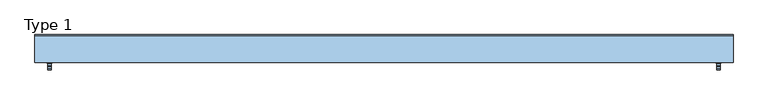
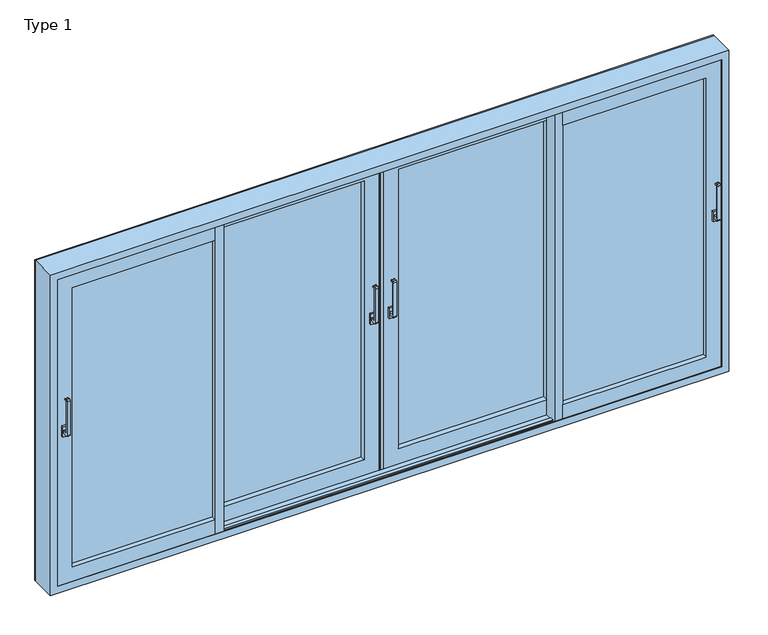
"""IFC4 building model written with IfcOpenShell, lengths in millimetres: window geometry, ETEM_ES70_Quadruple_Lift_Sliding_NI : Type 1."""

from ifc_helpers import new_model, si_unit, point, frame, frame_2d, origin, place, context, project, spatial, polyline, circle_curve, trimmed, segment, composite_curve, outline, extrude, faceted_brep, source, transform, mapped, element, save


def type_1_cbf24e59(model_context):
    return source(origin(), model_context, "Body", "SolidModel", [
        extrude(outline(composite_curve([segment(polyline([(-76.4992454, 1090.0), (-108.0729301, 1090.0)]), True, "CONTINUOUS"), segment(trimmed(circle_curve(frame_2d((-108.0729301, 1098.4263152)), 8.4263152), [point((-108.0729301, 1090.0))], [point((-116.4992454, 1098.4263152))], False, "CARTESIAN"), True, "CONTINUOUS"), segment(polyline([(-116.4992454, 1098.4263152), (-116.4992454, 1331.5736848)]), True, "CONTINUOUS"), segment(trimmed(circle_curve(frame_2d((-108.0729301, 1331.5736848)), 8.4263152), [point((-116.4992454, 1331.5736848))], [point((-108.0729301, 1340.0))], False, "CARTESIAN"), True, "CONTINUOUS"), segment(polyline([(-108.0729301, 1340.0), (-96.4992454, 1340.0)]), True, "CONTINUOUS"), segment(trimmed(circle_curve(frame_2d((-96.4992454, 1335.0)), 5.0), [point((-96.4992454, 1340.0))], [point((-96.4992454, 1330.0))], False, "CARTESIAN"), True, "CONTINUOUS"), segment(polyline([(-96.4992454, 1330.0), (-102.9637115, 1330.0)]), True, "CONTINUOUS"), segment(trimmed(circle_curve(frame_2d((-102.9637115, 1326.4644661)), 3.5355339), [point((-102.9637115, 1330.0))], [point((-106.4992454, 1326.4644661))], True, "CARTESIAN"), True, "CONTINUOUS"), segment(polyline([(-106.4992454, 1326.4644661), (-106.4992454, 1113.5355339)]), True, "CONTINUOUS"), segment(trimmed(circle_curve(frame_2d((-102.9637115, 1113.5355339)), 3.5355339), [point((-106.4992454, 1113.5355339))], [point((-102.9637115, 1110.0))], True, "CARTESIAN"), True, "CONTINUOUS"), segment(polyline([(-102.9637115, 1110.0), (-76.4992454, 1110.0), (-76.4992454, 1090.0)]), True, "CONTINUOUS")], self_intersect=False)), frame((2098.5, 0.0, 0.0), z_axis=(1.0, 0.0, 0.0), x_axis=(0.0, 1.0, 0.0)), (0.0, 0.0, 1.0), 20.0),
        extrude(outline(polyline([(2093.5, -76.4992454), (2093.5, -63.4992454), (2123.5, -63.4992454), (2123.5, -76.4992454), (2093.5, -76.4992454)])), frame((0.0, 0.0, 1065.0), z_axis=(0.0, 0.0, 1.0), x_axis=(1.0, 0.0, 0.0)), (0.0, 0.0, 1.0), 70.0),
        extrude(outline(composite_curve([segment(polyline([(-76.4992454, 1090.0), (-108.0729301, 1090.0)]), True, "CONTINUOUS"), segment(trimmed(circle_curve(frame_2d((-108.0729301, 1098.4263152)), 8.4263152), [point((-108.0729301, 1090.0))], [point((-116.4992454, 1098.4263152))], False, "CARTESIAN"), True, "CONTINUOUS"), segment(polyline([(-116.4992454, 1098.4263152), (-116.4992454, 1331.5736848)]), True, "CONTINUOUS"), segment(trimmed(circle_curve(frame_2d((-108.0729301, 1331.5736848)), 8.4263152), [point((-116.4992454, 1331.5736848))], [point((-108.0729301, 1340.0))], False, "CARTESIAN"), True, "CONTINUOUS"), segment(polyline([(-108.0729301, 1340.0), (-96.4992454, 1340.0)]), True, "CONTINUOUS"), segment(trimmed(circle_curve(frame_2d((-96.4992454, 1335.0)), 5.0), [point((-96.4992454, 1340.0))], [point((-96.4992454, 1330.0))], False, "CARTESIAN"), True, "CONTINUOUS"), segment(polyline([(-96.4992454, 1330.0), (-102.9637115, 1330.0)]), True, "CONTINUOUS"), segment(trimmed(circle_curve(frame_2d((-102.9637115, 1326.4644661)), 3.5355339), [point((-102.9637115, 1330.0))], [point((-106.4992454, 1326.4644661))], True, "CARTESIAN"), True, "CONTINUOUS"), segment(polyline([(-106.4992454, 1326.4644661), (-106.4992454, 1113.5355339)]), True, "CONTINUOUS"), segment(trimmed(circle_curve(frame_2d((-102.9637115, 1113.5355339)), 3.5355339), [point((-106.4992454, 1113.5355339))], [point((-102.9637115, 1110.0))], True, "CARTESIAN"), True, "CONTINUOUS"), segment(polyline([(-102.9637115, 1110.0), (-76.4992454, 1110.0), (-76.4992454, 1090.0)]), True, "CONTINUOUS")], self_intersect=False)), frame((-2118.5, 0.0, 0.0), z_axis=(1.0, 0.0, 0.0), x_axis=(0.0, 1.0, 0.0)), (0.0, 0.0, 1.0), 20.0),
        extrude(outline(polyline([(-2123.5, -76.4992454), (-2123.5, -63.4992454), (-2093.5, -63.4992454), (-2093.5, -76.4992454), (-2123.5, -76.4992454)])), frame((0.0, 0.0, 1065.0), z_axis=(0.0, 0.0, 1.0), x_axis=(1.0, 0.0, 0.0)), (0.0, 0.0, 1.0), 70.0),
        extrude(outline(composite_curve([segment(polyline([(13.5, 1090.0), (-18.0736848, 1090.0)]), True, "CONTINUOUS"), segment(trimmed(circle_curve(frame_2d((-18.0736848, 1098.4263152)), 8.4263152), [point((-18.0736848, 1090.0))], [point((-26.5, 1098.4263152))], False, "CARTESIAN"), True, "CONTINUOUS"), segment(polyline([(-26.5, 1098.4263152), (-26.5, 1331.5736848)]), True, "CONTINUOUS"), segment(trimmed(circle_curve(frame_2d((-18.0736848, 1331.5736848)), 8.4263152), [point((-26.5, 1331.5736848))], [point((-18.0736848, 1340.0))], False, "CARTESIAN"), True, "CONTINUOUS"), segment(polyline([(-18.0736848, 1340.0), (-6.5, 1340.0)]), True, "CONTINUOUS"), segment(trimmed(circle_curve(frame_2d((-6.5, 1335.0)), 5.0), [point((-6.5, 1340.0))], [point((-6.5, 1330.0))], False, "CARTESIAN"), True, "CONTINUOUS"), segment(polyline([(-6.5, 1330.0), (-12.9644661, 1330.0)]), True, "CONTINUOUS"), segment(trimmed(circle_curve(frame_2d((-12.9644661, 1326.4644661)), 3.5355339), [point((-12.9644661, 1330.0))], [point((-16.5, 1326.4644661))], True, "CARTESIAN"), True, "CONTINUOUS"), segment(polyline([(-16.5, 1326.4644661), (-16.5, 1113.5355339)]), True, "CONTINUOUS"), segment(trimmed(circle_curve(frame_2d((-12.9644661, 1113.5355339)), 3.5355339), [point((-16.5, 1113.5355339))], [point((-12.9644661, 1110.0))], True, "CARTESIAN"), True, "CONTINUOUS"), segment(polyline([(-12.9644661, 1110.0), (13.5, 1110.0), (13.5, 1090.0)]), True, "CONTINUOUS")], self_intersect=False)), frame((-69.4936823, 0.0, 0.0), z_axis=(1.0, 0.0, 0.0), x_axis=(0.0, 1.0, 0.0)), (0.0, 0.0, 1.0), 20.0),
        extrude(outline(polyline([(-74.4936823, 13.5), (-74.4936823, 26.5), (-44.4936823, 26.5), (-44.4936823, 13.5), (-74.4936823, 13.5)])), frame((0.0, 0.0, 1065.0), z_axis=(0.0, 0.0, 1.0), x_axis=(1.0, 0.0, 0.0)), (0.0, 0.0, 1.0), 70.0),
        extrude(outline(composite_curve([segment(polyline([(13.5, 1090.0), (-18.0736848, 1090.0)]), True, "CONTINUOUS"), segment(trimmed(circle_curve(frame_2d((-18.0736848, 1098.4263152)), 8.4263152), [point((-18.0736848, 1090.0))], [point((-26.5, 1098.4263152))], False, "CARTESIAN"), True, "CONTINUOUS"), segment(polyline([(-26.5, 1098.4263152), (-26.5, 1331.5736848)]), True, "CONTINUOUS"), segment(trimmed(circle_curve(frame_2d((-18.0736848, 1331.5736848)), 8.4263152), [point((-26.5, 1331.5736848))], [point((-18.0736848, 1340.0))], False, "CARTESIAN"), True, "CONTINUOUS"), segment(polyline([(-18.0736848, 1340.0), (-6.5, 1340.0)]), True, "CONTINUOUS"), segment(trimmed(circle_curve(frame_2d((-6.5, 1335.0)), 5.0), [point((-6.5, 1340.0))], [point((-6.5, 1330.0))], False, "CARTESIAN"), True, "CONTINUOUS"), segment(polyline([(-6.5, 1330.0), (-12.9644661, 1330.0)]), True, "CONTINUOUS"), segment(trimmed(circle_curve(frame_2d((-12.9644661, 1326.4644661)), 3.5355339), [point((-12.9644661, 1330.0))], [point((-16.5, 1326.4644661))], True, "CARTESIAN"), True, "CONTINUOUS"), segment(polyline([(-16.5, 1326.4644661), (-16.5, 1113.5355339)]), True, "CONTINUOUS"), segment(trimmed(circle_curve(frame_2d((-12.9644661, 1113.5355339)), 3.5355339), [point((-16.5, 1113.5355339))], [point((-12.9644661, 1110.0))], True, "CARTESIAN"), True, "CONTINUOUS"), segment(polyline([(-12.9644661, 1110.0), (13.5, 1110.0), (13.5, 1090.0)]), True, "CONTINUOUS")], self_intersect=False)), frame((49.4931787, 0.0, 0.0), z_axis=(1.0, 0.0, 0.0), x_axis=(0.0, 1.0, 0.0)), (0.0, 0.0, 1.0), 20.0),
        extrude(outline(polyline([(74.4931787, 13.5), (44.4931787, 13.5), (44.4931787, 26.5), (74.4931787, 26.5), (74.4931787, 13.5)])), frame((0.0, 0.0, 1065.0), z_axis=(0.0, 0.0, 1.0), x_axis=(1.0, 0.0, 0.0)), (0.0, 0.0, 1.0), 70.0),
        faceted_brep([(2200.0, -70.1, 2200.0), (2200.0, -70.1, 0.0), (2200.0, 97.9, 0.0), (2200.0, 97.9, 2200.0), (-2200.0, -70.1, 2200.0), (-2200.0, -70.1, 0.0), (2152.0, -70.1, 48.0), (-2152.0, -70.1, 48.0), (-2152.0, -70.1, 2152.0), (2152.0, -70.1, 2152.0), (-2200.0, 97.9, 0.0), (-2200.0, 97.9, 2200.0), (2183.7, 97.9, 2183.7), (-2183.7, 97.9, 2183.7), (-2183.7, 97.9, 16.3), (2183.7, 97.9, 16.3), (2183.7, 66.0, 2183.7), (2183.7, 66.0, 16.3), (-2183.7, 66.0, 16.3), (-2183.7, 66.0, 2183.7), (2160.0, 66.0, 2160.0), (-2160.0, 66.0, 2160.0), (-2160.0, 66.0, 40.0), (2160.0, 66.0, 40.0), (2160.0, 80.0, 2160.0), (2160.0, 80.0, 40.0), (-2160.0, 80.0, 40.0), (-2160.0, 80.0, 2160.0), (2152.0, 80.0, 2152.0), (-2152.0, 80.0, 2152.0), (-2152.0, 80.0, 48.0), (2152.0, 80.0, 48.0), (2152.0, 57.0, 2152.0), (2152.0, 57.0, 48.0), (-2152.0, 57.0, 48.0), (2183.7, 57.0, 2183.7), (-2183.7, 57.0, 2183.7), (-2183.7, 57.0, 16.3), (2183.7, 57.0, 16.3), (-2152.0, 57.0, 2152.0), (2183.7, -24.0, 2183.7), (2183.7, -24.0, 16.3), (-2183.7, -24.0, 16.3), (-2183.7, -24.0, 2183.7), (2152.0, -24.0, 2152.0), (-2152.0, -24.0, 2152.0), (-2152.0, -24.0, 48.0), (2152.0, -24.0, 48.0), (2152.0, -47.0, 2152.0), (2152.0, -47.0, 48.0), (-2152.0, -47.0, 48.0), (2160.0, -47.0, 2160.0), (-2160.0, -47.0, 2160.0), (-2160.0, -47.0, 40.0), (2160.0, -47.0, 40.0), (-2152.0, -47.0, 2152.0), (2160.0, -33.0, 2160.0), (2160.0, -33.0, 40.0), (-2160.0, -33.0, 40.0), (2183.7, -33.0, 2183.7), (-2183.7, -33.0, 2183.7), (-2183.7, -33.0, 16.3), (2183.7, -33.0, 16.3), (-2160.0, -33.0, 2160.0), (2183.7, -66.3, 2183.7), (2183.7, -66.3, 16.3), (-2183.7, -66.3, 16.3), (-2183.7, -66.3, 2183.7), (2152.0, -66.3, 2152.0), (-2152.0, -66.3, 2152.0), (-2152.0, -66.3, 48.0), (2152.0, -66.3, 48.0)], [[[0, 1, 2, 3]], [[0, 4, 5, 1], [6, 7, 8, 9]], [[2, 1, 5, 10]], [[2, 10, 11, 3], [12, 13, 14, 15]], [[16, 12, 15, 17]], [[17, 15, 14, 18]], [[17, 18, 19, 16], [20, 21, 22, 23]], [[24, 20, 23, 25]], [[25, 23, 22, 26]], [[25, 26, 27, 24], [28, 29, 30, 31]], [[32, 28, 31, 33]], [[33, 31, 30, 34]], [[35, 36, 37, 38], [33, 34, 39, 32]], [[40, 35, 38, 41]], [[41, 38, 37, 42]], [[41, 42, 43, 40], [44, 45, 46, 47]], [[48, 44, 47, 49]], [[49, 47, 46, 50]], [[51, 52, 53, 54], [49, 50, 55, 48]], [[56, 51, 54, 57]], [[57, 54, 53, 58]], [[59, 60, 61, 62], [57, 58, 63, 56]], [[64, 59, 62, 65]], [[65, 62, 61, 66]], [[65, 66, 67, 64], [68, 69, 70, 71]], [[9, 68, 71, 6]], [[6, 71, 70, 7]], [[10, 5, 4, 11]], [[18, 14, 13, 19]], [[26, 22, 21, 27]], [[34, 30, 29, 39]], [[42, 37, 36, 43]], [[50, 46, 45, 55]], [[58, 53, 52, 63]], [[66, 61, 60, 67]], [[7, 70, 69, 8]], [[11, 4, 0, 3]], [[19, 13, 12, 16]], [[27, 21, 20, 24]], [[39, 29, 28, 32]], [[43, 36, 35, 40]], [[55, 45, 44, 48]], [[63, 52, 51, 56]], [[67, 60, 59, 64]], [[8, 69, 68, 9]]]),
        faceted_brep([(1073.0, 26.5, 142.0), (1073.0, 26.5, 39.0), (1073.0, 38.9, 39.0), (1073.0, 38.9, 70.1), (1073.0, 84.1, 70.1), (1073.0, 84.1, 39.0), (1073.0, 96.5, 39.0), (1073.0, 96.5, 142.0), (110.0252518, 26.5, 142.0), (110.0252518, 26.5, 2058.0), (1073.0, 26.5, 2058.0), (1073.0, 26.5, 2161.0), (7.0252518, 26.5, 2161.0), (7.0252518, 26.5, 39.0), (7.0252518, 38.9, 39.0), (7.0252518, 38.9, 2161.0), (1073.0, 38.9, 2161.0), (1073.0, 38.9, 2129.9), (38.1252518, 38.9, 2129.9), (38.1252518, 38.9, 70.1), (38.1252518, 84.1, 70.1), (38.1252518, 84.1, 2129.9), (1073.0, 84.1, 2129.9), (1073.0, 84.1, 2161.0), (7.0252518, 84.1, 2161.0), (7.0252518, 84.1, 39.0), (7.0252518, 96.5, 39.0), (7.0252518, 96.5, 2161.0), (1073.0, 96.5, 2161.0), (1073.0, 96.5, 2058.0), (110.0252518, 96.5, 2058.0), (110.0252518, 96.5, 142.0)], [[[0, 1, 2, 3, 4, 5, 6, 7]], [[1, 0, 8, 9, 10, 11, 12, 13]], [[2, 1, 13, 14]], [[3, 2, 14, 15, 16, 17, 18, 19]], [[4, 3, 19, 20]], [[5, 4, 20, 21, 22, 23, 24, 25]], [[6, 5, 25, 26]], [[7, 6, 26, 27, 28, 29, 30, 31]], [[0, 7, 31, 8]], [[8, 31, 30, 9]], [[14, 13, 12, 15]], [[20, 19, 18, 21]], [[26, 25, 24, 27]], [[10, 29, 28, 23, 22, 17, 16, 11]], [[15, 12, 11, 16]], [[21, 18, 17, 22]], [[27, 24, 23, 28]], [[9, 30, 29, 10]]]),
        extrude(outline(polyline([(109.9252518, 88.5022684), (1073.05, 88.5022684), (1073.05, 82.5022684), (109.9252518, 82.5022684), (109.9252518, 88.5022684)])), frame((0.0, 0.0, 142.0), z_axis=(0.0, 0.0, 1.0), x_axis=(1.0, 0.0, 0.0)), (0.0, 0.0, 1.0), 1916.0),
        extrude(outline(polyline([(1127.0, -1.4992409), (2058.0, -1.4992409), (2058.0, -7.4992409), (1127.0, -7.4992409), (1127.0, -1.4992409)])), frame((0.0, 0.0, 141.9749999), z_axis=(0.0, 0.0, 1.0), x_axis=(1.0, 0.0, 0.0)), (0.0, 0.0, 1.0), 1916.0500002),
        extrude(outline(polyline([(109.9252518, 66.5022684), (1073.05, 66.5022684), (1073.05, 60.5022684), (109.9252518, 60.5022684), (109.9252518, 66.5022684)])), frame((0.0, 0.0, 142.0), z_axis=(0.0, 0.0, 1.0), x_axis=(1.0, 0.0, 0.0)), (0.0, 0.0, 1.0), 1916.0),
        extrude(outline(polyline([(1127.0, -23.4992409), (2058.0, -23.4992409), (2058.0, -29.4992409), (1127.0, -29.4992409), (1127.0, -23.4992409)])), frame((0.0, 0.0, 141.9749999), z_axis=(0.0, 0.0, 1.0), x_axis=(1.0, 0.0, 0.0)), (0.0, 0.0, 1.0), 1916.0500002),
        faceted_brep([(-1073.0, 26.5, 142.0), (-1073.0, 96.5, 142.0), (-1073.0, 96.5, 39.0), (-1073.0, 84.1, 39.0), (-1073.0, 84.1, 70.1), (-1073.0, 38.9, 70.1), (-1073.0, 38.9, 39.0), (-1073.0, 26.5, 39.0), (-110.0252518, 26.5, 142.0), (-110.0252518, 96.5, 142.0), (-1073.0, 96.5, 2058.0), (-1073.0, 96.5, 2161.0), (-7.0252518, 96.5, 2161.0), (-7.0252518, 96.5, 39.0), (-110.0252518, 96.5, 2058.0), (-7.0252518, 84.1, 39.0), (-1073.0, 84.1, 2161.0), (-1073.0, 84.1, 2129.9), (-38.1252518, 84.1, 2129.9), (-38.1252518, 84.1, 70.1), (-7.0252518, 84.1, 2161.0), (-38.1252518, 38.9, 70.1), (-1073.0, 38.9, 2129.9), (-1073.0, 38.9, 2161.0), (-7.0252518, 38.9, 2161.0), (-7.0252518, 38.9, 39.0), (-38.1252518, 38.9, 2129.9), (-7.0252518, 26.5, 39.0), (-1073.0, 26.5, 2161.0), (-1073.0, 26.5, 2058.0), (-110.0252518, 26.5, 2058.0), (-7.0252518, 26.5, 2161.0)], [[[0, 1, 2, 3, 4, 5, 6, 7]], [[8, 9, 1, 0]], [[10, 11, 12, 13, 2, 1, 9, 14]], [[13, 15, 3, 2]], [[16, 17, 18, 19, 4, 3, 15, 20]], [[19, 21, 5, 4]], [[22, 23, 24, 25, 6, 5, 21, 26]], [[25, 27, 7, 6]], [[28, 29, 30, 8, 0, 7, 27, 31]], [[24, 31, 27, 25]], [[18, 26, 21, 19]], [[12, 20, 15, 13]], [[30, 14, 9, 8]], [[29, 28, 23, 22, 17, 16, 11, 10]], [[23, 28, 31, 24]], [[17, 22, 26, 18]], [[11, 16, 20, 12]], [[29, 10, 14, 30]]]),
        extrude(outline(polyline([(-1073.05, 88.5022684), (-109.9252518, 88.5022684), (-109.9252518, 82.5022684), (-1073.05, 82.5022684), (-1073.05, 88.5022684)])), frame((0.0, 0.0, 142.0), z_axis=(0.0, 0.0, 1.0), x_axis=(1.0, 0.0, 0.0)), (0.0, 0.0, 1.0), 1916.0),
        extrude(outline(polyline([(-1073.05, 66.5022684), (-109.9252518, 66.5022684), (-109.9252518, 60.5022684), (-1073.05, 60.5022684), (-1073.05, 66.5022684)])), frame((0.0, 0.0, 142.0), z_axis=(0.0, 0.0, 1.0), x_axis=(1.0, 0.0, 0.0)), (0.0, 0.0, 1.0), 1916.0),
        extrude(outline(polyline([(-1073.0, -63.4992454), (-1127.0, -63.4992454), (-1127.0, 6.5007546), (-1081.4, 6.5007546), (-1081.4, 22.5007546), (-1073.0, 22.5007546), (-1073.0, -63.4992454)])), frame((0.0, 0.0, 39.0), z_axis=(0.0, 0.0, 1.0), x_axis=(1.0, 0.0, 0.0)), (0.0, 0.0, 1.0), 2122.0),
        extrude(outline(polyline([(-1127.0, 96.5007546), (-1073.0, 96.5007546), (-1073.0, 26.5007546), (-1118.6, 26.5007546), (-1118.6, 10.5007546), (-1127.0, 10.5007546), (-1127.0, 96.5007546)])), frame((0.0, 0.0, 39.0), z_axis=(0.0, 0.0, 1.0), x_axis=(1.0, 0.0, 0.0)), (0.0, 0.0, 1.0), 2122.0),
        extrude(outline(polyline([(-2058.0, -1.4992409), (-1127.0, -1.4992409), (-1127.0, -7.4992409), (-2058.0, -7.4992409), (-2058.0, -1.4992409)])), frame((0.0, 0.0, 141.9749999), z_axis=(0.0, 0.0, 1.0), x_axis=(1.0, 0.0, 0.0)), (0.0, 0.0, 1.0), 1916.0500002),
        extrude(outline(polyline([(-2058.0, -23.4992409), (-1127.0, -23.4992409), (-1127.0, -29.4992409), (-2058.0, -29.4992409), (-2058.0, -23.4992409)])), frame((0.0, 0.0, 141.9749999), z_axis=(0.0, 0.0, 1.0), x_axis=(1.0, 0.0, 0.0)), (0.0, 0.0, 1.0), 1916.0500002),
        extrude(outline(polyline([(7.0252518, 42.9992454), (7.0252518, 26.5), (12.3472419, 26.5), (12.3472419, 24.7022316), (-12.6492101, 24.7022316), (-12.6492101, 26.5), (-7.0252518, 26.5), (-7.0252518, 96.5), (-12.6492101, 96.5), (-12.6492101, 98.2992777), (12.3472419, 98.2992777), (12.3472419, 96.5), (7.0252518, 96.5), (7.0252518, 80.0007546), (16.0497482, 80.0007546), (16.0497482, 42.9992454), (7.0252518, 42.9992454)])), frame((0.0, 0.0, 39.0188293), z_axis=(0.0, 0.0, 1.0), x_axis=(1.0, 0.0, 0.0)), (0.0, 0.0, 1.0), 2121.9623414),
        extrude(outline(polyline([(0.0, -2200.0), (0.0, -2152.0), (2152.0, -2152.0), (2152.0, 2152.0), (0.0, 2152.0), (0.0, 2200.0), (2200.0, 2200.0), (2200.0, -2200.0), (0.0, -2200.0)])), frame((0.0, 97.9, 0.0), z_axis=(0.0, 1.0, 0.0), x_axis=(0.0, 0.0, 1.0)), (0.0, 0.0, 1.0), 7.1),
        faceted_brep([(1127.0, -63.4992454, 141.9749999), (1127.0, 6.5007546, 141.9749999), (1127.0, 6.5007546, 39.0), (1127.0, -5.8992454, 39.0), (1127.0, -5.8992454, 70.0749999), (1127.0, -51.0992454, 70.0749999), (1127.0, -51.0992454, 39.0), (1127.0, -63.4992454, 39.0), (2058.0250001, -63.4992454, 141.9749999), (2058.0250001, 6.5007546, 141.9749999), (1127.0, 6.5007546, 2058.0250001), (1127.0, 6.5007546, 2161.0), (2161.0, 6.5007546, 2161.0), (2161.0, 6.5007546, 39.0), (2058.0250001, 6.5007546, 2058.0250001), (2161.0, -5.8992454, 39.0), (1127.0, -5.8992454, 2161.0), (1127.0, -5.8992454, 2129.9250001), (2129.9250001, -5.8992454, 2129.9250001), (2129.9250001, -5.8992454, 70.0749999), (2161.0, -5.8992454, 2161.0), (2129.9250001, -51.0992454, 70.0749999), (1127.0, -51.0992454, 2129.9250001), (1127.0, -51.0992454, 2161.0), (2161.0, -51.0992454, 2161.0), (2161.0, -51.0992454, 39.0), (2129.9250001, -51.0992454, 2129.9250001), (2161.0, -63.4992454, 39.0), (1127.0, -63.4992454, 2161.0), (1127.0, -63.4992454, 2058.0250001), (2058.0250001, -63.4992454, 2058.0250001), (2161.0, -63.4992454, 2161.0)], [[[0, 1, 2, 3, 4, 5, 6, 7]], [[8, 9, 1, 0]], [[10, 11, 12, 13, 2, 1, 9, 14]], [[13, 15, 3, 2]], [[16, 17, 18, 19, 4, 3, 15, 20]], [[19, 21, 5, 4]], [[22, 23, 24, 25, 6, 5, 21, 26]], [[25, 27, 7, 6]], [[28, 29, 30, 8, 0, 7, 27, 31]], [[24, 31, 27, 25]], [[18, 26, 21, 19]], [[12, 20, 15, 13]], [[30, 14, 9, 8]], [[29, 28, 23, 22, 17, 16, 11, 10]], [[23, 28, 31, 24]], [[17, 22, 26, 18]], [[11, 16, 20, 12]], [[29, 10, 14, 30]]]),
        faceted_brep([(-1127.0, -63.4992454, 141.9749999), (-1127.0, -63.4992454, 39.0), (-1127.0, -51.0992454, 39.0), (-1127.0, -51.0992454, 70.0749999), (-1127.0, -5.8992454, 70.0749999), (-1127.0, -5.8992454, 39.0), (-1127.0, 6.5007546, 39.0), (-1127.0, 6.5007546, 141.9749999), (-1127.0, -63.4992454, 2058.0250001), (-1127.0, -63.4992454, 2161.0), (-2161.0, -63.4992454, 2161.0), (-2161.0, -63.4992454, 39.0), (-2058.0250001, -63.4992454, 141.9749999), (-2058.0250001, -63.4992454, 2058.0250001), (-2161.0, -51.0992454, 39.0), (-1127.0, -51.0992454, 2161.0), (-1127.0, -51.0992454, 2129.9250001), (-2129.9250001, -51.0992454, 2129.9250001), (-2129.9250001, -51.0992454, 70.0749999), (-2161.0, -51.0992454, 2161.0), (-2129.9250001, -5.8992454, 70.0749999), (-1127.0, -5.8992454, 2129.9250001), (-1127.0, -5.8992454, 2161.0), (-2161.0, -5.8992454, 2161.0), (-2161.0, -5.8992454, 39.0), (-2129.9250001, -5.8992454, 2129.9250001), (-2161.0, 6.5007546, 39.0), (-1127.0, 6.5007546, 2161.0), (-1127.0, 6.5007546, 2058.0250001), (-2058.0250001, 6.5007546, 2058.0250001), (-2058.0250001, 6.5007546, 141.9749999), (-2161.0, 6.5007546, 2161.0)], [[[0, 1, 2, 3, 4, 5, 6, 7]], [[8, 9, 10, 11, 1, 0, 12, 13]], [[11, 14, 2, 1]], [[15, 16, 17, 18, 3, 2, 14, 19]], [[18, 20, 4, 3]], [[21, 22, 23, 24, 5, 4, 20, 25]], [[24, 26, 6, 5]], [[27, 28, 29, 30, 7, 6, 26, 31]], [[30, 12, 0, 7]], [[29, 13, 12, 30]], [[23, 31, 26, 24]], [[17, 25, 20, 18]], [[10, 19, 14, 11]], [[8, 28, 27, 22, 21, 16, 15, 9]], [[28, 8, 13, 29]], [[22, 27, 31, 23]], [[16, 21, 25, 17]], [[9, 15, 19, 10]]]),
        extrude(outline(polyline([(1073.0, -63.4992454), (1073.0, 22.5007546), (1081.4, 22.5007546), (1081.4, 6.5007546), (1127.0, 6.5007546), (1127.0, -63.4992454), (1073.0, -63.4992454)])), frame((0.0, 0.0, 39.0), z_axis=(0.0, 0.0, 1.0), x_axis=(1.0, 0.0, 0.0)), (0.0, 0.0, 1.0), 2122.0),
        extrude(outline(polyline([(1127.0, 96.5007546), (1127.0, 10.5007546), (1118.6, 10.5007546), (1118.6, 26.5007546), (1073.0, 26.5007546), (1073.0, 96.5007546), (1127.0, 96.5007546)])), frame((0.0, 0.0, 39.0), z_axis=(0.0, 0.0, 1.0), x_axis=(1.0, 0.0, 0.0)), (0.0, 0.0, 1.0), 2122.0),
    ])


if __name__ == "__main__":
    model = new_model("IFC4")
    model_context = context("Model", 3, world=origin())
    ifc_project = project(units=[si_unit("LENGTHUNIT", "METRE", prefix="MILLI")], contexts=[model_context])
    site = spatial("IfcSite", under=ifc_project)
    building = spatial("IfcBuilding", under=site)
    placement = place(None, origin())
    type_1_shape = type_1_cbf24e59(model_context)
    element("IfcWindow", 1, ObjectType="ETEM_ES70_Quadruple_Lift_Sliding_NI : Type 1", at=placement, inside=building, context=model_context, shape_type="MappedRepresentation", body=[
        mapped(type_1_shape, transform((0.0, 0.0, 0.0), x_axis=(1.0, 0.0, 0.0), y_axis=(0.0, 1.0, 0.0), z_axis=(0.0, 0.0, 1.0))),
    ])
    save(model, "model.ifc")
